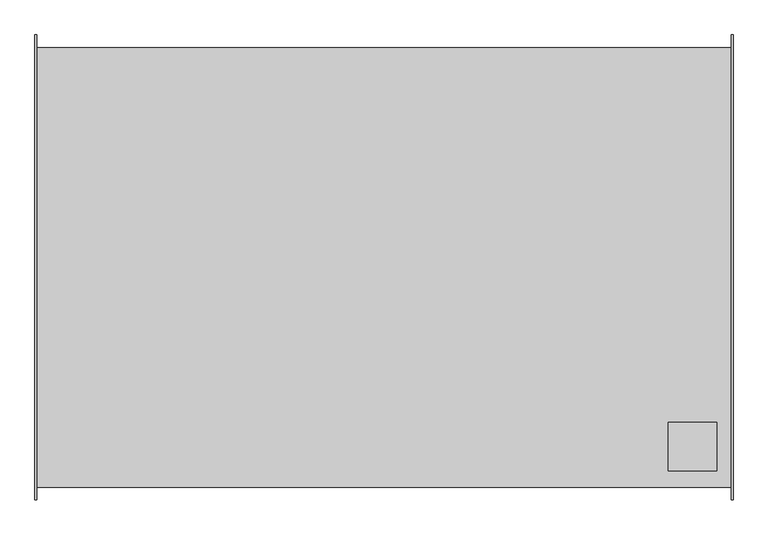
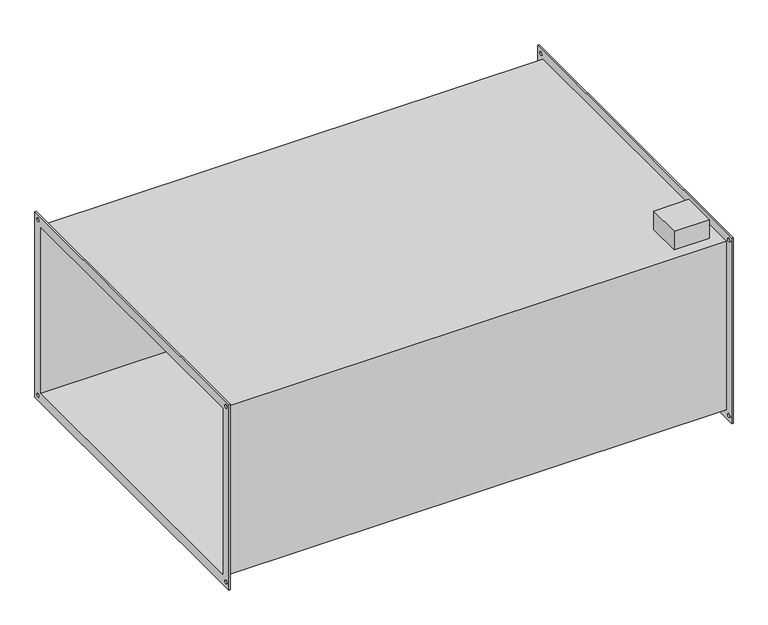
"""IFC4 building model written with IfcOpenShell, lengths in millimetres: proxy geometry."""

from ifc_helpers import new_model, si_unit, frame, origin, place, context, project, spatial, polyline, circle_curve, source, transform, mapped, element, save
from ifc_brep_helpers import plane_surface, revolved_surface, advanced_brep


def mechanical_equipment_38a8dd3d(model_context):
    return source(origin(), model_context, "Body", "AdvancedBrep", [
        advanced_brep(
        [(716.0, -454.0, 254.0), (-716.0, -454.0, 254.0), (-716.0, -454.0, -254.0), (716.0, -454.0, -254.0), (-716.0, 454.0, -254.0), (716.0, 454.0, -254.0), (-716.0, 454.0, 254.0), (716.0, 454.0, 254.0), (586.0, -320.0, 254.0), (686.0, -320.0, 254.0), (686.0, -420.0, 254.0), (586.0, -420.0, 254.0), (686.0, -320.0, 310.0), (586.0, -320.0, 310.0), (586.0, -420.0, 310.0), (686.0, -420.0, 310.0), (-720.0, -480.0, 280.0), (-720.0, 480.0, 280.0), (-720.0, 480.0, -280.0), (-720.0, -480.0, -280.0), (-720.0, -450.0, 250.0), (-720.0, -450.0, -250.0), (-720.0, 450.0, -250.0), (-720.0, 450.0, 250.0), (-720.0, -470.0, 265.0), (-720.0, -460.0, 265.0), (-720.0, -470.0, -265.0), (-720.0, -460.0, -265.0), (-720.0, 460.0, -265.0), (-720.0, 470.0, -265.0), (-720.0, 460.0, 265.0), (-720.0, 470.0, 265.0), (-716.0, -480.0, 280.0), (-716.0, -480.0, -280.0), (-716.0, 480.0, -280.0), (-716.0, 480.0, 280.0), (-716.0, -460.0, 265.0), (-716.0, -470.0, 265.0), (-716.0, -460.0, -265.0), (-716.0, -470.0, -265.0), (-716.0, 470.0, -265.0), (-716.0, 460.0, -265.0), (-716.0, 470.0, 265.0), (-716.0, 460.0, 265.0), (716.0, 480.0, 280.0), (716.0, 480.0, -280.0), (716.0, -480.0, -280.0), (716.0, -480.0, 280.0), (716.0, -470.0, 265.0), (716.0, -460.0, 265.0), (716.0, -470.0, -265.0), (716.0, -460.0, -265.0), (716.0, 460.0, -265.0), (716.0, 470.0, -265.0), (716.0, 460.0, 265.0), (716.0, 470.0, 265.0), (720.0, 480.0, 280.0), (720.0, -480.0, 280.0), (720.0, -480.0, -280.0), (720.0, 480.0, -280.0), (720.0, 450.0, 250.0), (720.0, 450.0, -250.0), (720.0, -450.0, -250.0), (720.0, -450.0, 250.0), (720.0, -460.0, 265.0), (720.0, -470.0, 265.0), (720.0, -460.0, -265.0), (720.0, -470.0, -265.0), (720.0, 470.0, -265.0), (720.0, 460.0, -265.0), (720.0, 470.0, 265.0), (720.0, 460.0, 265.0)],
        [
            (0, 1),
            (1, 2),
            (2, 3),
            (3, 0),
            (2, 4),
            (4, 5),
            (5, 3),
            (4, 6),
            (6, 7),
            (7, 5),
            (0, 7),
            (6, 1),
            (8, 9),
            (9, 10),
            (10, 11),
            (11, 8),
            (12, 13),
            (13, 14),
            (14, 15),
            (15, 12),
            (12, 9),
            (8, 13),
            (11, 14),
            (10, 15),
            (16, 17),
            (17, 18),
            (18, 19),
            (19, 16),
            (20, 21),
            (21, 22),
            (22, 23),
            (23, 20),
            (24, 25, circle_curve(frame((-720.0, -465.0, 265.0), z_axis=(1.0, 0.0, 0.0), x_axis=(0.0, 1.0, 0.0)), 5.0)),
            (25, 24, circle_curve(frame((-720.0, -465.0, 265.0), z_axis=(1.0, 0.0, 0.0), x_axis=(0.0, 1.0, 0.0)), 5.0)),
            (26, 27, circle_curve(frame((-720.0, -465.0, -265.0), z_axis=(1.0, 0.0, 0.0), x_axis=(0.0, 1.0, 0.0)), 5.0)),
            (27, 26, circle_curve(frame((-720.0, -465.0, -265.0), z_axis=(1.0, 0.0, 0.0), x_axis=(0.0, 1.0, 0.0)), 5.0)),
            (28, 29, circle_curve(frame((-720.0, 465.0, -265.0), z_axis=(1.0, 0.0, 0.0), x_axis=(0.0, 1.0, 0.0)), 5.0)),
            (29, 28, circle_curve(frame((-720.0, 465.0, -265.0), z_axis=(1.0, 0.0, 0.0), x_axis=(0.0, 1.0, 0.0)), 5.0)),
            (30, 31, circle_curve(frame((-720.0, 465.0, 265.0), z_axis=(1.0, 0.0, 0.0), x_axis=(0.0, 1.0, 0.0)), 5.0)),
            (31, 30, circle_curve(frame((-720.0, 465.0, 265.0), z_axis=(1.0, 0.0, 0.0), x_axis=(0.0, 1.0, 0.0)), 5.0)),
            (32, 33),
            (33, 34),
            (34, 35),
            (35, 32),
            (36, 37, circle_curve(frame((-716.0, -465.0, 265.0), z_axis=(-1.0, 0.0, 0.0), x_axis=(0.0, 1.0, 0.0)), 5.0)),
            (37, 36, circle_curve(frame((-716.0, -465.0, 265.0), z_axis=(-1.0, 0.0, 0.0), x_axis=(0.0, 1.0, 0.0)), 5.0)),
            (38, 39, circle_curve(frame((-716.0, -465.0, -265.0), z_axis=(-1.0, 0.0, 0.0), x_axis=(0.0, 1.0, 0.0)), 5.0)),
            (39, 38, circle_curve(frame((-716.0, -465.0, -265.0), z_axis=(-1.0, 0.0, 0.0), x_axis=(0.0, 1.0, 0.0)), 5.0)),
            (40, 41, circle_curve(frame((-716.0, 465.0, -265.0), z_axis=(-1.0, 0.0, 0.0), x_axis=(0.0, 1.0, 0.0)), 5.0)),
            (41, 40, circle_curve(frame((-716.0, 465.0, -265.0), z_axis=(-1.0, 0.0, 0.0), x_axis=(0.0, 1.0, 0.0)), 5.0)),
            (42, 43, circle_curve(frame((-716.0, 465.0, 265.0), z_axis=(-1.0, 0.0, 0.0), x_axis=(0.0, 1.0, 0.0)), 5.0)),
            (43, 42, circle_curve(frame((-716.0, 465.0, 265.0), z_axis=(-1.0, 0.0, 0.0), x_axis=(0.0, 1.0, 0.0)), 5.0)),
            (19, 33),
            (32, 16),
            (18, 34),
            (17, 35),
            (44, 45),
            (45, 46),
            (46, 47),
            (47, 44),
            (48, 49, circle_curve(frame((716.0, -465.0, 265.0), z_axis=(1.0, 0.0, 0.0), x_axis=(0.0, 1.0, 0.0)), 5.0)),
            (49, 48, circle_curve(frame((716.0, -465.0, 265.0), z_axis=(1.0, 0.0, 0.0), x_axis=(0.0, 1.0, 0.0)), 5.0)),
            (50, 51, circle_curve(frame((716.0, -465.0, -265.0), z_axis=(1.0, 0.0, 0.0), x_axis=(0.0, 1.0, 0.0)), 5.0)),
            (51, 50, circle_curve(frame((716.0, -465.0, -265.0), z_axis=(1.0, 0.0, 0.0), x_axis=(0.0, 1.0, 0.0)), 5.0)),
            (52, 53, circle_curve(frame((716.0, 465.0, -265.0), z_axis=(1.0, 0.0, 0.0), x_axis=(0.0, 1.0, 0.0)), 5.0)),
            (53, 52, circle_curve(frame((716.0, 465.0, -265.0), z_axis=(1.0, 0.0, 0.0), x_axis=(0.0, 1.0, 0.0)), 5.0)),
            (54, 55, circle_curve(frame((716.0, 465.0, 265.0), z_axis=(1.0, 0.0, 0.0), x_axis=(0.0, 1.0, 0.0)), 5.0)),
            (55, 54, circle_curve(frame((716.0, 465.0, 265.0), z_axis=(1.0, 0.0, 0.0), x_axis=(0.0, 1.0, 0.0)), 5.0)),
            (56, 57),
            (57, 58),
            (58, 59),
            (59, 56),
            (60, 61),
            (61, 62),
            (62, 63),
            (63, 60),
            (64, 65, circle_curve(frame((720.0, -465.0, 265.0), z_axis=(-1.0, 0.0, 0.0), x_axis=(0.0, 1.0, 0.0)), 5.0)),
            (65, 64, circle_curve(frame((720.0, -465.0, 265.0), z_axis=(-1.0, 0.0, 0.0), x_axis=(0.0, 1.0, 0.0)), 5.0)),
            (66, 67, circle_curve(frame((720.0, -465.0, -265.0), z_axis=(-1.0, 0.0, 0.0), x_axis=(0.0, 1.0, 0.0)), 5.0)),
            (67, 66, circle_curve(frame((720.0, -465.0, -265.0), z_axis=(-1.0, 0.0, 0.0), x_axis=(0.0, 1.0, 0.0)), 5.0)),
            (68, 69, circle_curve(frame((720.0, 465.0, -265.0), z_axis=(-1.0, 0.0, 0.0), x_axis=(0.0, 1.0, 0.0)), 5.0)),
            (69, 68, circle_curve(frame((720.0, 465.0, -265.0), z_axis=(-1.0, 0.0, 0.0), x_axis=(0.0, 1.0, 0.0)), 5.0)),
            (70, 71, circle_curve(frame((720.0, 465.0, 265.0), z_axis=(-1.0, 0.0, 0.0), x_axis=(0.0, 1.0, 0.0)), 5.0)),
            (71, 70, circle_curve(frame((720.0, 465.0, 265.0), z_axis=(-1.0, 0.0, 0.0), x_axis=(0.0, 1.0, 0.0)), 5.0)),
            (47, 57),
            (56, 44),
            (46, 58),
            (45, 59),
            (23, 60),
            (63, 20),
            (22, 61),
            (21, 62),
            (24, 37),
            (36, 25),
            (48, 65),
            (64, 49),
            (26, 39),
            (38, 27),
            (50, 67),
            (66, 51),
            (28, 41),
            (40, 29),
            (52, 69),
            (68, 53),
            (30, 43),
            (42, 31),
            (54, 71),
            (70, 55),
        ],
        [
            plane_surface(frame((716.0, -454.0, 254.0), z_axis=(0.0, -1.0, 0.0), x_axis=(-1.0, 0.0, 0.0))),
            plane_surface(frame((716.0, -454.0, -254.0), z_axis=(0.0, 0.0, -1.0), x_axis=(-1.0, 0.0, 0.0))),
            plane_surface(frame((716.0, 454.0, -254.0), z_axis=(0.0, 1.0, 0.0), x_axis=(-1.0, 0.0, 0.0))),
            plane_surface(frame((716.0, 454.0, 254.0), z_axis=(0.0, 0.0, 1.0), x_axis=(-1.0, 0.0, 0.0))),
            plane_surface(frame((586.0, -320.0, 310.0), z_axis=(0.0, 0.0, 1.0), x_axis=(-1.0, 0.0, 0.0))),
            plane_surface(frame((686.0, -320.0, 310.0), z_axis=(0.0, 1.0, 0.0), x_axis=(0.0, 0.0, -1.0))),
            plane_surface(frame((586.0, -320.0, 310.0), z_axis=(-1.0, 0.0, 0.0), x_axis=(0.0, 0.0, -1.0))),
            plane_surface(frame((586.0, -420.0, 310.0), z_axis=(0.0, -1.0, 0.0), x_axis=(0.0, 0.0, -1.0))),
            plane_surface(frame((686.0, -420.0, 310.0), z_axis=(1.0, 0.0, 0.0), x_axis=(0.0, 0.0, -1.0))),
            plane_surface(frame((-720.0, -480.0, 280.0), z_axis=(-1.0, 0.0, 0.0), x_axis=(0.0, 0.0, 1.0))),
            plane_surface(frame((-716.0, -480.0, 280.0), z_axis=(1.0, 0.0, 0.0), x_axis=(0.0, 0.0, -1.0))),
            plane_surface(frame((-716.0, -480.0, 280.0), z_axis=(0.0, -1.0, 0.0), x_axis=(-1.0, 0.0, 0.0))),
            plane_surface(frame((-716.0, -480.0, -280.0), z_axis=(0.0, 0.0, -1.0), x_axis=(-1.0, 0.0, 0.0))),
            plane_surface(frame((-716.0, 480.0, -280.0), z_axis=(0.0, 1.0, 0.0), x_axis=(-1.0, 0.0, 0.0))),
            plane_surface(frame((-716.0, 480.0, 280.0), z_axis=(0.0, 0.0, 1.0), x_axis=(-1.0, 0.0, 0.0))),
            plane_surface(frame((716.0, 450.0, -250.0), z_axis=(-1.0, 0.0, 0.0), x_axis=(0.0, 0.0, 1.0))),
            plane_surface(frame((720.0, 450.0, -250.0), z_axis=(1.0, 0.0, 0.0), x_axis=(0.0, 0.0, -1.0))),
            plane_surface(frame((720.0, 480.0, 280.0), z_axis=(0.0, 0.0, 1.0), x_axis=(-1.0, 0.0, 0.0))),
            plane_surface(frame((720.0, -480.0, 280.0), z_axis=(0.0, -1.0, 0.0), x_axis=(-1.0, 0.0, 0.0))),
            plane_surface(frame((720.0, -480.0, -280.0), z_axis=(0.0, 0.0, -1.0), x_axis=(-1.0, 0.0, 0.0))),
            plane_surface(frame((720.0, 480.0, -280.0), z_axis=(0.0, 1.0, 0.0), x_axis=(-1.0, 0.0, 0.0))),
            plane_surface(frame((-716.0, -450.0, 250.0), z_axis=(0.0, 0.0, -1.0), x_axis=(-1.0, 0.0, 0.0))),
            plane_surface(frame((-716.0, 450.0, 250.0), z_axis=(0.0, -1.0, 0.0), x_axis=(-1.0, 0.0, 0.0))),
            plane_surface(frame((-716.0, 450.0, -250.0), z_axis=(0.0, 0.0, 1.0), x_axis=(-1.0, 0.0, 0.0))),
            plane_surface(frame((-716.0, -450.0, -250.0), z_axis=(0.0, 1.0, 0.0), x_axis=(-1.0, 0.0, 0.0))),
            revolved_surface(polyline([(-716.0, -460.0, 265.0), (-720.0, -460.0, 265.0)]), (-720.0, -465.0, 265.0), (1.0, 0.0, 0.0)),
            revolved_surface(polyline([(720.0, -460.0, 265.0), (716.0, -460.0, 265.0)]), (-720.0, -465.0, 265.0), (1.0, 0.0, 0.0)),
            revolved_surface(polyline([(-716.0, -460.0, -265.0), (-720.0, -460.0, -265.0)]), (0.0, -465.0, -265.0), (1.0, 0.0, 0.0)),
            revolved_surface(polyline([(720.0, -460.0, -265.0), (716.0, -460.0, -265.0)]), (0.0, -465.0, -265.0), (1.0, 0.0, 0.0)),
            revolved_surface(polyline([(-716.0, 470.0, -265.0), (-720.0, 470.0, -265.0)]), (0.0, 465.0, -265.0), (1.0, 0.0, 0.0)),
            revolved_surface(polyline([(720.0, 470.0, -265.0), (716.0, 470.0, -265.0)]), (0.0, 465.0, -265.0), (1.0, 0.0, 0.0)),
            revolved_surface(polyline([(-716.0, 470.0, 265.0), (-720.0, 470.0, 265.0)]), (0.0, 465.0, 265.0), (1.0, 0.0, 0.0)),
            revolved_surface(polyline([(720.0, 470.0, 265.0), (716.0, 470.0, 265.0)]), (0.0, 465.0, 265.0), (1.0, 0.0, 0.0)),
        ],
        [
            (0, [[1, 2, 3, 4]]),
            (1, [[-3, 5, 6, 7]]),
            (2, [[-6, 8, 9, 10]]),
            (3, [[-1, 11, -9, 12], [13, 14, 15, 16]]),
            (4, [[17, 18, 19, 20]]),
            (5, [[-17, 21, -13, 22]]),
            (6, [[-18, -22, -16, 23]]),
            (7, [[-19, -23, -15, 24]]),
            (8, [[-20, -24, -14, -21]]),
            (9, [[25, 26, 27, 28], [29, 30, 31, 32], [33, 34], [35, 36], [37, 38], [39, 40]]),
            (10, [[41, 42, 43, 44], [-2, -12, -8, -5], [45, 46], [47, 48], [49, 50], [51, 52]]),
            (11, [[-28, 53, -41, 54]]),
            (12, [[-27, 55, -42, -53]]),
            (13, [[-26, 56, -43, -55]]),
            (14, [[-25, -54, -44, -56]]),
            (15, [[57, 58, 59, 60], [-4, -7, -10, -11], [61, 62], [63, 64], [65, 66], [67, 68]]),
            (16, [[69, 70, 71, 72], [73, 74, 75, 76], [77, 78], [79, 80], [81, 82], [83, 84]]),
            (17, [[-60, 85, -69, 86]]),
            (18, [[-59, 87, -70, -85]]),
            (19, [[-58, 88, -71, -87]]),
            (20, [[-57, -86, -72, -88]]),
            (21, [[-32, 89, -76, 90]]),
            (22, [[-31, 91, -73, -89]]),
            (23, [[-30, 92, -74, -91]]),
            (24, [[-29, -90, -75, -92]]),
            (25, [[93, -45, 94, -33]]),
            (26, [[95, -77, 96, -61]]),
            (25, [[-93, -34, -94, -46]]),
            (26, [[-95, -62, -96, -78]]),
            (27, [[97, -47, 98, -35]]),
            (28, [[99, -79, 100, -63]]),
            (27, [[-97, -36, -98, -48]]),
            (28, [[-99, -64, -100, -80]]),
            (29, [[101, -49, 102, -37]]),
            (30, [[103, -81, 104, -65]]),
            (29, [[-101, -38, -102, -50]]),
            (30, [[-103, -66, -104, -82]]),
            (31, [[105, -51, 106, -39]]),
            (32, [[107, -83, 108, -67]]),
            (31, [[-105, -40, -106, -52]]),
            (32, [[-107, -68, -108, -84]]),
        ],
    ),
    ])


if __name__ == "__main__":
    model = new_model("IFC4")
    model_context = context("Model", 3, world=origin())
    ifc_project = project(units=[si_unit("LENGTHUNIT", "METRE", prefix="MILLI")], contexts=[model_context])
    site = spatial("IfcSite", under=ifc_project)
    building = spatial("IfcBuilding", under=site)
    placement = place(None, origin())
    mechanical_equipment_shape = mechanical_equipment_38a8dd3d(model_context)
    element("IfcBuildingElementProxy", 1, Name="Mechanical Equipment", at=placement, inside=building, context=model_context, shape_type="MappedRepresentation", body=[
        mapped(mechanical_equipment_shape, transform((0.0, 0.0, 0.0), x_axis=(1.0, 0.0, 0.0), y_axis=(0.0, 1.0, 0.0), z_axis=(0.0, 0.0, 1.0))),
    ])
    save(model, "model.ifc")
